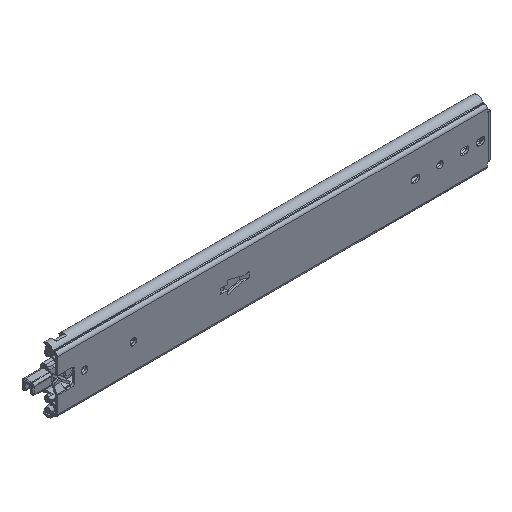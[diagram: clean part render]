
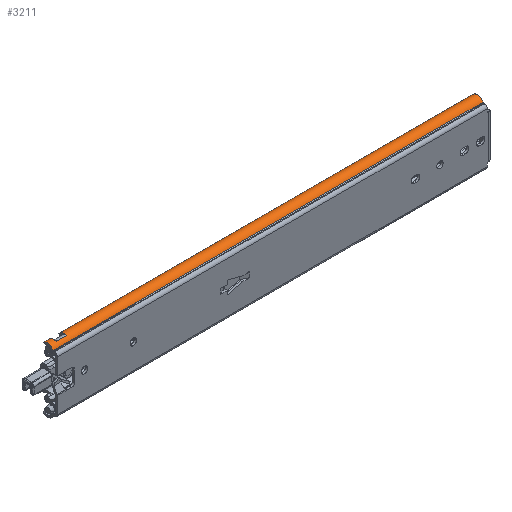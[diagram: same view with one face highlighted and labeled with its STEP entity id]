
A CAD part, isometric view. The second image highlights one B-rep face of the part: STEP entity #3211.
In plain terms, the highlighted cylindrical face has radius 7.25 mm (diameter 14.5 mm), a partial arc.
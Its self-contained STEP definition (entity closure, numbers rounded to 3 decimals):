
#5=CARTESIAN_POINT('',(0.,11.5,30.4));
#6=DIRECTION('',(1.,0.,0.));
#7=DIRECTION('',(0.,0.632,0.775));
#8=AXIS2_PLACEMENT_3D('',#5,#6,#7);
#825=CARTESIAN_POINT('',(503.,11.5,30.4));
#826=DIRECTION('',(1.,0.,0.));
#827=DIRECTION('',(0.,0.38,0.925));
#828=AXIS2_PLACEMENT_3D('',#825,#826,#827);
#874=CARTESIAN_POINT('',(1.401,17.079,35.031));
#875=CARTESIAN_POINT('',(0.932,16.779,35.392));
#876=CARTESIAN_POINT('',(0.465,16.446,35.722));
#877=CARTESIAN_POINT('',(0.,16.079,36.021));
#879=DIRECTION('',(1.,0.,0.));
#880=VECTOR('',#879,6.099);
#881=CARTESIAN_POINT('',(1.401,17.079,35.031));
#882=LINE('',#881,#880);
#883=CARTESIAN_POINT('',(7.5,11.5,30.4));
#884=DIRECTION('',(1.,0.,0.));
#885=DIRECTION('',(0.,0.769,0.639));
#886=AXIS2_PLACEMENT_3D('',#883,#884,#885);
#888=CARTESIAN_POINT('',(19.5,11.5,30.4));
#889=DIRECTION('',(1.,0.,0.));
#890=DIRECTION('',(0.,0.769,0.639));
#891=AXIS2_PLACEMENT_3D('',#888,#889,#890);
#893=DIRECTION('',(1.,0.,0.));
#894=VECTOR('',#893,482.165);
#895=CARTESIAN_POINT('',(19.5,17.079,35.031));
#896=LINE('',#895,#894);
#897=CARTESIAN_POINT('',(503.,14.255,37.106));
#898=CARTESIAN_POINT('',(503.,14.611,36.96));
#899=CARTESIAN_POINT('',(502.931,15.26,36.627));
#900=CARTESIAN_POINT('',(502.637,16.055,36.065));
#901=CARTESIAN_POINT('',(502.189,16.669,35.501));
#902=CARTESIAN_POINT('',(501.845,16.955,35.18));
#903=CARTESIAN_POINT('',(501.665,17.079,35.031));
#905=DIRECTION('',(1.,0.,0.));
#906=VECTOR('',#905,503.);
#907=CARTESIAN_POINT('',(0.,4.916,33.436));
#908=LINE('',#907,#906);
#1217=DIRECTION('',(1.,0.,0.));
#1218=VECTOR('',#1217,12.);
#1219=CARTESIAN_POINT('',(7.5,8.515,37.007));
#1220=LINE('',#1219,#1218);
#1672=CARTESIAN_POINT('',(0.,4.916,33.436));
#1674=VERTEX_POINT('',#1672);
#1696=CARTESIAN_POINT('',(7.5,17.079,35.031));
#1698=VERTEX_POINT('',#1696);
#1700=CARTESIAN_POINT('',(19.5,17.079,35.031));
#1702=VERTEX_POINT('',#1700);
#1747=CARTESIAN_POINT('',(7.5,8.515,37.007));
#1748=VERTEX_POINT('',#1747);
#1749=CARTESIAN_POINT('',(19.5,8.515,37.007));
#1750=VERTEX_POINT('',#1749);
#1988=CARTESIAN_POINT('',(503.,4.916,33.436));
#1989=VERTEX_POINT('',#1988);
#2046=VERTEX_POINT('',#897);
#2047=VERTEX_POINT('',#903);
#2070=CARTESIAN_POINT('',(1.401,17.079,35.031));
#2071=VERTEX_POINT('',#2070);
#2072=VERTEX_POINT('',#877);
#3188=CARTESIAN_POINT('',(0.,11.5,30.4));
#3189=DIRECTION('',(1.,0.,0.));
#3190=DIRECTION('',(0.,-1.,0.));
#3191=AXIS2_PLACEMENT_3D('',#3188,#3189,#3190);
#3192=CYLINDRICAL_SURFACE('',#3191,7.25);
#3193=ORIENTED_EDGE('',*,*,#2220,.F.);
#3195=ORIENTED_EDGE('',*,*,#3194,.T.);
#3197=ORIENTED_EDGE('',*,*,#3196,.T.);
#3199=ORIENTED_EDGE('',*,*,#3198,.T.);
#3201=ORIENTED_EDGE('',*,*,#3200,.F.);
#3203=ORIENTED_EDGE('',*,*,#3202,.T.);
#3204=ORIENTED_EDGE('',*,*,#3175,.F.);
#3205=ORIENTED_EDGE('',*,*,#3136,.T.);
#3207=ORIENTED_EDGE('',*,*,#3206,.F.);
#3208=ORIENTED_EDGE('',*,*,#2142,.F.);
#3209=EDGE_LOOP('',(#3193,#3195,#3197,#3199,#3201,#3203,#3204,#3205,#3207,
#3208));
#3210=FACE_OUTER_BOUND('',#3209,.F.);
#9=CIRCLE('',#8,7.25);
#829=CIRCLE('',#828,7.25);
#878=B_SPLINE_CURVE_WITH_KNOTS('',3,(#874,#875,#876,#877),.UNSPECIFIED.,.F.,.F.,
(4,4),(0.,1.),.UNSPECIFIED.);
#887=CIRCLE('',#886,7.25);
#892=CIRCLE('',#891,7.25);
#904=B_SPLINE_CURVE_WITH_KNOTS('',3,(#897,#898,#899,#900,#901,#902,#903),
.UNSPECIFIED.,.F.,.F.,(4,1,1,1,4),(0.,0.25,0.5,0.75,1.),
.UNSPECIFIED.);
#2142=EDGE_CURVE('',#2072,#1674,#9,.T.);
#2220=EDGE_CURVE('',#2071,#2072,#878,.T.);
#3136=EDGE_CURVE('',#2046,#1989,#829,.T.);
#3175=EDGE_CURVE('',#2046,#2047,#904,.T.);
#3194=EDGE_CURVE('',#2071,#1698,#882,.T.);
#3196=EDGE_CURVE('',#1698,#1748,#887,.T.);
#3198=EDGE_CURVE('',#1748,#1750,#1220,.T.);
#3200=EDGE_CURVE('',#1702,#1750,#892,.T.);
#3202=EDGE_CURVE('',#1702,#2047,#896,.T.);
#3206=EDGE_CURVE('',#1674,#1989,#908,.T.);
#3211=ADVANCED_FACE('',(#3210),#3192,.T.);
